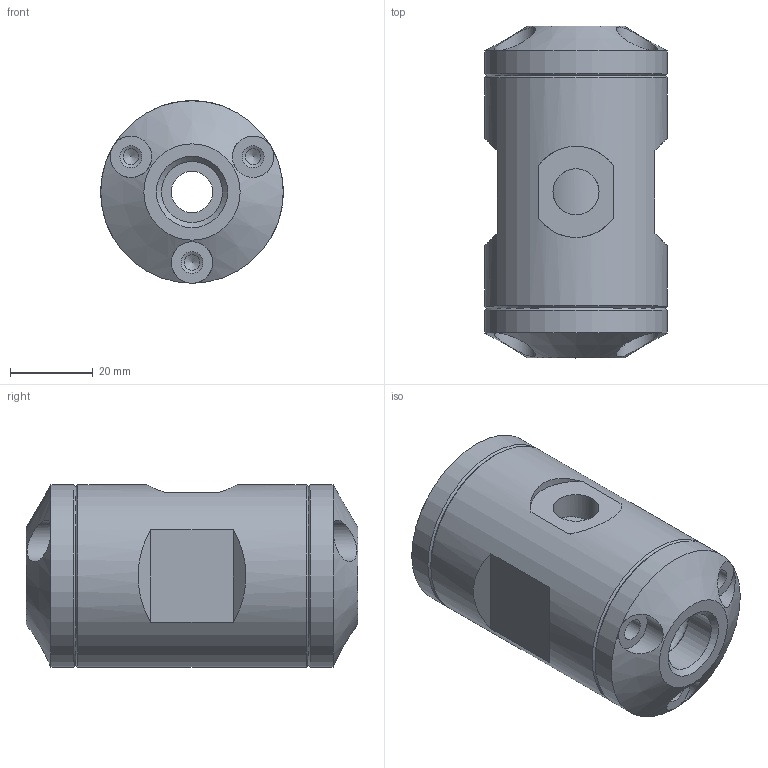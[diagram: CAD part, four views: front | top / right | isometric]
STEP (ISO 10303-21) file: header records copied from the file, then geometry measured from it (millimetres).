
FILE_DESCRIPTION(/* description */ (''),/* implementation_level */ '2;1');
FILE_NAME(/* name */ 'QV10_assembly_VEREINFACHT.stp',/* time_stamp */ '2013-09-23T20:44:05+02:00',/* author */ (''),/* organization */ (''),/* preprocessor_version */ 'ST-DEVELOPER v11',/* originating_system */ 'SIEMENS PLM Software NX 7.5',/* authorisation */ '');
FILE_SCHEMA (('AUTOMOTIVE_DESIGN { 1 0 10303 214 1 1 1 1 }'));
Length unit declared in the file: millimetre
Products named in the file (1): memd82A4l9us
Bounding box: 44 x 80 x 44 mm (x, y, z)
Volume: 98632.7 mm3; surface area: 24758.8 mm2
Topology: 3 solids, 3 shells, 97 faces, 230 edges, 148 vertices
Faces by surface type: cylinder 36, plane 25, cone 24, torus 12
Full cylindrical faces by diameter (mm): 3.8 x6, 5.3 x12, 10 x9, 11.113 x1, 14.684 x2, 44 x3
Entity records: 2257 total; most frequent: CARTESIAN_POINT 455, DIRECTION 400, ORIENTED_EDGE 232, AXIS2_PLACEMENT_3D 195, EDGE_LOOP 188, FACE_BOUND 179, EDGE_CURVE 116, VERTEX_POINT 104
